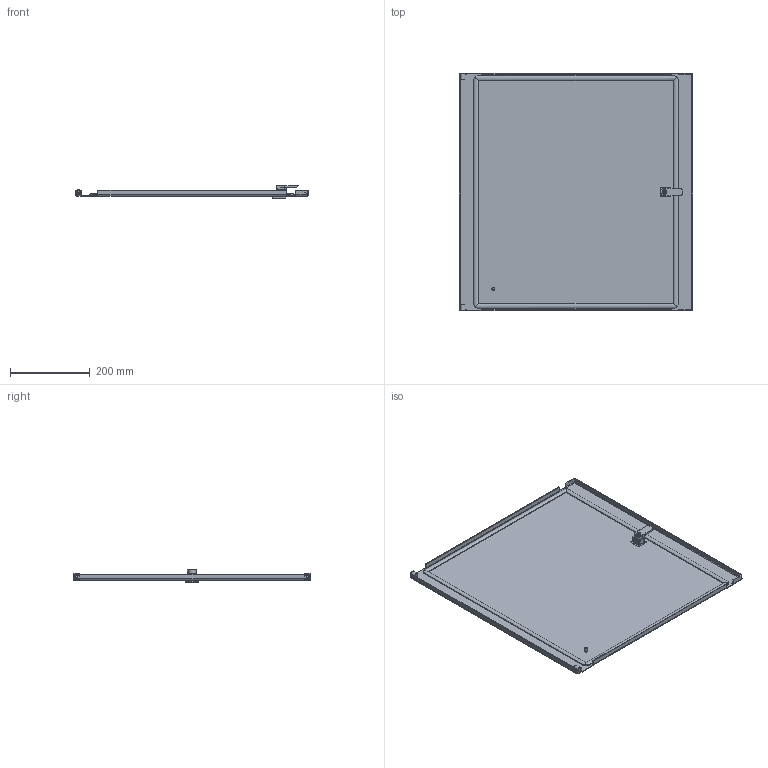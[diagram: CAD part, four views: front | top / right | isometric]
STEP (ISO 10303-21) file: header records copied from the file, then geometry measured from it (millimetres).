
FILE_DESCRIPTION(('STEP AP203'), '1');
FILE_NAME('Äâåðü ñåêöèîííàÿ 600õ600 ìì OptiBox M 419385 ÊÝÀÇ', '', ('UNSPECIFIED'), ('UNSPECIFIED'), 'C3D Converter', 'C3D Toolkit', '');
FILE_SCHEMA(('CONFIG_CONTROL_DESIGN'));
Length unit declared in the file: millimetre
Bounding box: 586.4 x 597 x 32.2 mm (x, y, z)
Volume: 864675.6 mm3; surface area: 828234.1 mm2
Topology: 6 solids, 6 shells, 355 faces, 928 edges, 588 vertices
Faces by surface type: plane 252, cylinder 92, bspline 8, cone 2, torus 1
Full cylindrical faces by diameter (mm): 0.75 x1, 1 x1, 3 x1, 5 x2, 6 x1, 7.5 x1, 9.3 x1, 10 x1, 20 x1
Entity records: 11864 total; most frequent: CARTESIAN_POINT 3095, ORIENTED_EDGE 1830, DIRECTION 1731, EDGE_CURVE 915, LINE 705, VECTOR 705, VERTEX_POINT 588, AXIS2_PLACEMENT_3D 513
